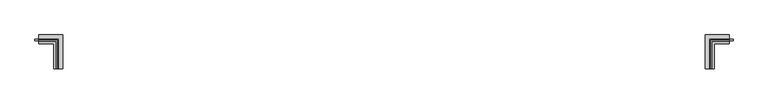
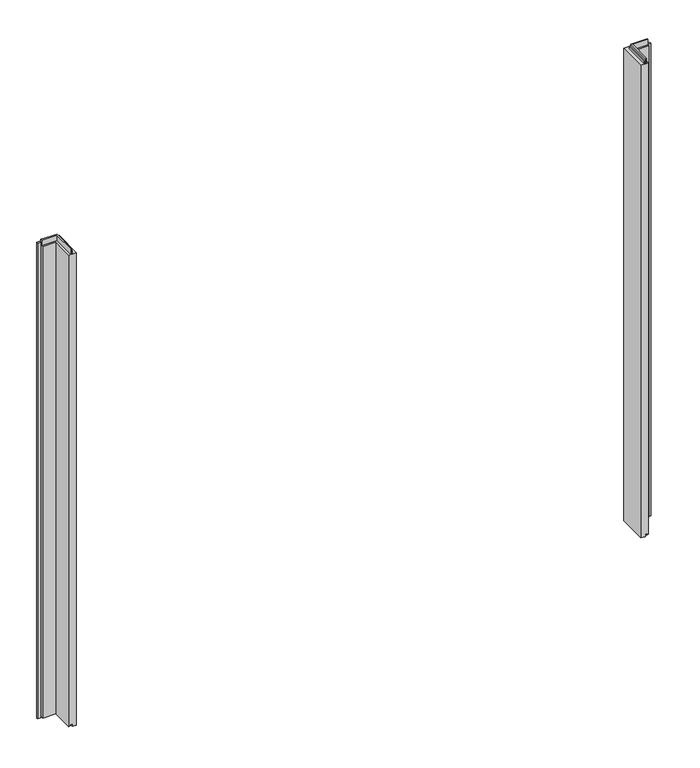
"""IFC4 building model written with IfcOpenShell, lengths in millimetres: plate geometry, Trimo_Qbiss Screen_Wall Opening Trims-HORIZONTAL : HR - B."""

from ifc_helpers import new_model, si_unit, frame, origin, origin_with_axes, place, context, project, spatial, polyline, outline, extrude, faceted_brep, source, transform, mapped, element, save


def plate_04bf2944(model_context):
    return source(origin(), model_context, "Body", "SolidModel", [
        extrude(outline(polyline([(-1960.4, 71.0), (-1960.4, 76.0), (-1850.4, 76.0), (-1850.4, -92.0), (-1855.4, -92.0), (-1855.4, 71.0), (-1960.4, 71.0)])), frame((0.0, 0.0, 3229.8), z_axis=(0.0, 0.0, 1.0), x_axis=(1.0, 0.0, 0.0)), (0.0, 0.0, 1.0), 21.0),
        extrude(outline(polyline([(1854.4, -92.0), (1849.4, -92.0), (1849.4, 76.0), (1960.4, 76.0), (1960.4, 71.0), (1854.4, 71.0), (1854.4, -92.0)])), frame((0.0, 0.0, 3229.8), z_axis=(0.0, 0.0, 1.0), x_axis=(1.0, 0.0, 0.0)), (0.0, 0.0, 1.0), 21.0),
        faceted_brep([(-1960.4, 71.0, 3228.8), (-1960.4, 100.0, 3228.8), (-1960.4, 100.0, 0.0), (-1960.4, 72.0, 0.0), (-1960.4, 72.0, 15.5), (-1960.4, 62.0, 15.5), (-1960.4, 62.0, 7.0), (-1960.4, 50.0, 7.0), (-1960.4, 50.0, 3228.8), (-1960.4, 63.0, 3228.8), (-1960.4, 63.0, 3266.3), (-1960.4, 71.0, 3266.3), (-1854.4, 71.0, 3228.8), (-1854.4, -92.0, 3228.8), (-1825.4, -92.0, 3228.8), (-1825.4, 100.0, 3228.8), (-1825.4, 100.0, 0.0), (-1825.4, -92.0, 0.0), (-1853.4, -92.0, 0.0), (-1853.4, 72.0, 0.0), (-1853.4, 72.0, 15.5), (-1853.4, -92.0, 15.5), (-1863.4, -92.0, 15.5), (-1863.4, 62.0, 15.5), (-1863.4, 62.0, 7.0), (-1863.4, -92.0, 7.0), (-1875.4, -92.0, 7.0), (-1875.4, 50.0, 7.0), (-1875.4, 50.0, 3228.8), (-1875.4, -92.0, 3228.8), (-1862.4, -92.0, 3228.8), (-1862.4, 63.0, 3228.8), (-1862.4, 63.0, 3266.3), (-1862.4, -92.0, 3266.3), (-1854.4, -92.0, 3266.3), (-1854.4, 71.0, 3266.3)], [[[0, 1, 2, 3, 4, 5, 6, 7, 8, 9, 10, 11]], [[1, 0, 12, 13, 14, 15]], [[2, 1, 15, 16]], [[3, 2, 16, 17, 18, 19]], [[4, 3, 19, 20]], [[5, 4, 20, 21, 22, 23]], [[6, 5, 23, 24]], [[7, 6, 24, 25, 26, 27]], [[8, 7, 27, 28]], [[9, 8, 28, 29, 30, 31]], [[10, 9, 31, 32]], [[11, 10, 32, 33, 34, 35]], [[0, 11, 35, 12]], [[13, 34, 33, 30, 29, 26, 25, 22, 21, 18, 17, 14]], [[16, 15, 14, 17]], [[20, 19, 18, 21]], [[24, 23, 22, 25]], [[28, 27, 26, 29]], [[32, 31, 30, 33]], [[12, 35, 34, 13]]]),
        faceted_brep([(1854.4, -92.0, 3228.8), (1825.4, -92.0, 3228.8), (1825.4, -92.0, 0.0), (1853.4, -92.0, 0.0), (1853.4, -92.0, 15.5), (1863.4, -92.0, 15.5), (1863.4, -92.0, 7.0), (1875.4, -92.0, 7.0), (1875.4, -92.0, 3228.8), (1862.4, -92.0, 3228.8), (1862.4, -92.0, 3266.3), (1854.4, -92.0, 3266.3), (1825.4, 100.0, 0.0), (1825.4, 100.0, 3228.8), (1960.4, 100.0, 3228.8), (1960.4, 100.0, 0.0), (1853.4, 72.0, 15.5), (1853.4, 72.0, 0.0), (1960.4, 72.0, 0.0), (1960.4, 72.0, 15.5), (1863.4, 62.0, 7.0), (1863.4, 62.0, 15.5), (1960.4, 62.0, 15.5), (1960.4, 62.0, 7.0), (1875.4, 50.0, 3228.8), (1875.4, 50.0, 7.0), (1960.4, 50.0, 7.0), (1960.4, 50.0, 3228.8), (1862.4, 63.0, 3266.3), (1862.4, 63.0, 3228.8), (1960.4, 63.0, 3228.8), (1960.4, 63.0, 3266.3), (1854.4, 71.0, 3228.8), (1854.4, 71.0, 3266.3), (1960.4, 71.0, 3266.3), (1960.4, 71.0, 3228.8)], [[[0, 1, 2, 3, 4, 5, 6, 7, 8, 9, 10, 11]], [[12, 13, 14, 15]], [[16, 17, 18, 19]], [[20, 21, 22, 23]], [[24, 25, 26, 27]], [[28, 29, 30, 31]], [[32, 33, 34, 35]], [[35, 34, 31, 30, 27, 26, 23, 22, 19, 18, 15, 14]], [[1, 0, 32, 35, 14, 13]], [[2, 1, 13, 12]], [[3, 2, 12, 15, 18, 17]], [[4, 3, 17, 16]], [[5, 4, 16, 19, 22, 21]], [[6, 5, 21, 20]], [[7, 6, 20, 23, 26, 25]], [[8, 7, 25, 24]], [[9, 8, 24, 27, 30, 29]], [[10, 9, 29, 28]], [[11, 10, 28, 31, 34, 33]], [[0, 11, 33, 32]]]),
        extrude(outline(polyline([(1963.4, 76.5978162), (1982.4, 76.5978162), (1982.4, 67.8978162), (1963.4, 67.8978162), (1963.4, 76.5978162)])), origin_with_axes(), (0.0, 0.0, 1.0), 3228.8),
        extrude(outline(polyline([(-1963.4, 76.5978162), (-1963.4, 67.8978162), (-1982.4, 67.8978162), (-1982.4, 76.5978162), (-1963.4, 76.5978162)])), origin_with_axes(), (0.0, 0.0, 1.0), 3251.8),
    ])


if __name__ == "__main__":
    model = new_model("IFC4")
    model_context = context("Model", 3, world=origin())
    ifc_project = project(units=[si_unit("LENGTHUNIT", "METRE", prefix="MILLI")], contexts=[model_context])
    site = spatial("IfcSite", under=ifc_project)
    building = spatial("IfcBuilding", under=site)
    placement = place(None, origin())
    plate_shape = plate_04bf2944(model_context)
    element("IfcPlate", 1, ObjectType="Trimo_Qbiss Screen_Wall Opening Trims-HORIZONTAL : HR - B", at=placement, inside=building, context=model_context, shape_type="MappedRepresentation", body=[
        mapped(plate_shape, transform((0.0, 0.0, 0.0), x_axis=(1.0, 0.0, 0.0), y_axis=(0.0, 1.0, 0.0), z_axis=(0.0, 0.0, 1.0))),
    ])
    save(model, "model.ifc")
